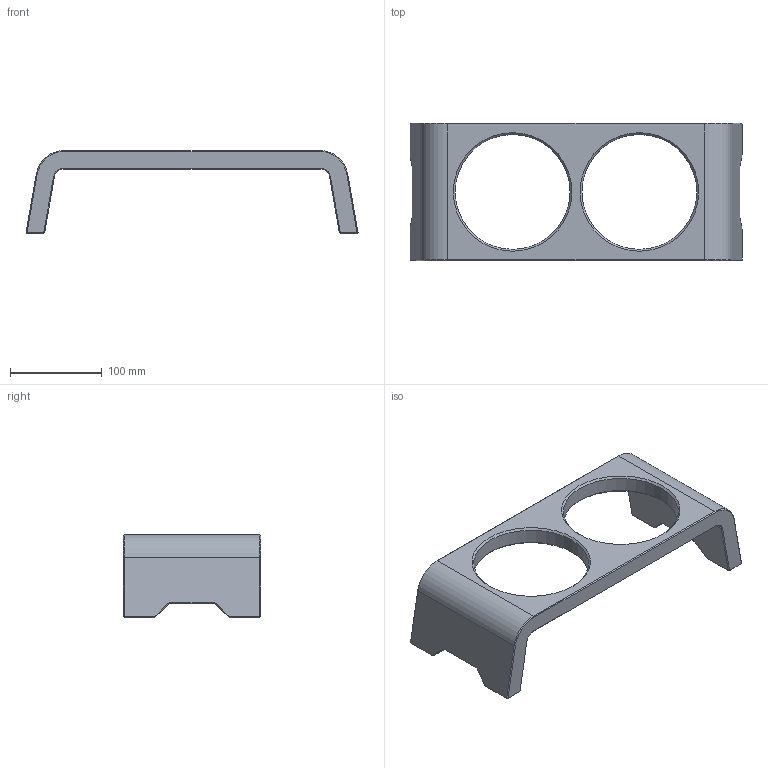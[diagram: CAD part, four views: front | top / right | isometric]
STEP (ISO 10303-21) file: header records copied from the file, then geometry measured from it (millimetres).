
FILE_DESCRIPTION(/* description */ ('Unknown'),/* implementation_level */ '2;1');
FILE_NAME(/* name */ 'Napfgestell',/* time_stamp */ '2022-12-25T08:39:15+01:00',/* author */ ('Unknown'),/* organization */ ('Unknown'),/* preprocessor_version */ 'ST-DEVELOPER v16.7',/* originating_system */ 'Solid Edge',/* authorisation */ 'Unknown');
FILE_SCHEMA (('AUTOMOTIVE_DESIGN {1 0 10303 214 3 1 1}'));
Length unit declared in the file: millimetre
Products named in the file (1): Napfgestell
Bounding box: 361.39 x 150 x 90 mm (x, y, z)
Volume: 854075.2 mm3; surface area: 125806.7 mm2
Topology: 1 solids, 1 shells, 136 faces, 288 edges, 166 vertices
Faces by surface type: plane 90, cone 24, cylinder 14, bspline 8
Full cylindrical faces by diameter (mm): 9 x8, 125 x2
Entity records: 3322 total; most frequent: CARTESIAN_POINT 609, DIRECTION 546, ORIENTED_EDGE 496, EDGE_CURVE 248, AXIS2_PLACEMENT_3D 185, EDGE_LOOP 178, FACE_BOUND 178, LINE 176
